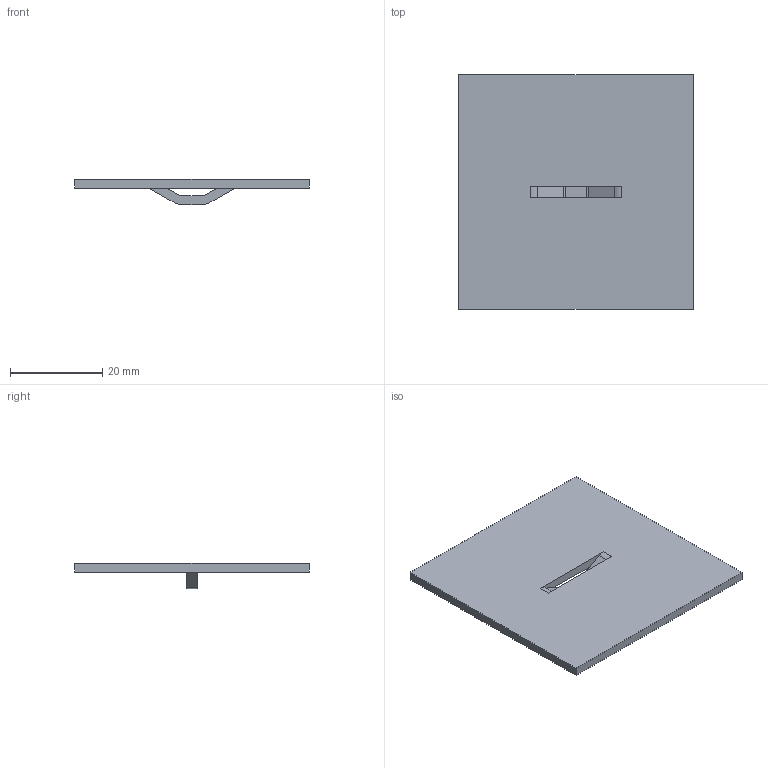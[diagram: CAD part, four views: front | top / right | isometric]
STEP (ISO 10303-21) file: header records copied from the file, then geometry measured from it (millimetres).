
FILE_DESCRIPTION((''),'1');
FILE_NAME('C:/Users/robertnolte/Desktop/WT#202-9807.stp','2012-03-28T18:31:57',(''),(''),'Spatial Interop R21 SP3','Kubotek KeyCreator 2011 V10.5.0 (24766)',' ');
FILE_SCHEMA(('CONFIG_CONTROL_DESIGN'));
Length unit declared in the file: inch
Products named in the file (1): 1
Bounding box: 50.8 x 50.8 x 5.49 mm (x, y, z)
Volume: 4924.4 mm3; surface area: 5675.1 mm2
Topology: 1 solids, 1 shells, 24 faces, 68 edges, 44 vertices
Faces by surface type: plane 16, cylinder 8
Entity records: 828 total; most frequent: CARTESIAN_POINT 137, ORIENTED_EDGE 136, DIRECTION 134, EDGE_CURVE 68, LINE 52, VECTOR 52, VERTEX_POINT 44, AXIS2_PLACEMENT_3D 41
